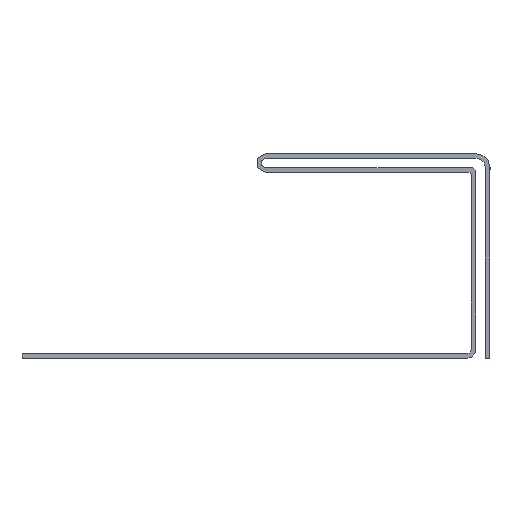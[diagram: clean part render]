
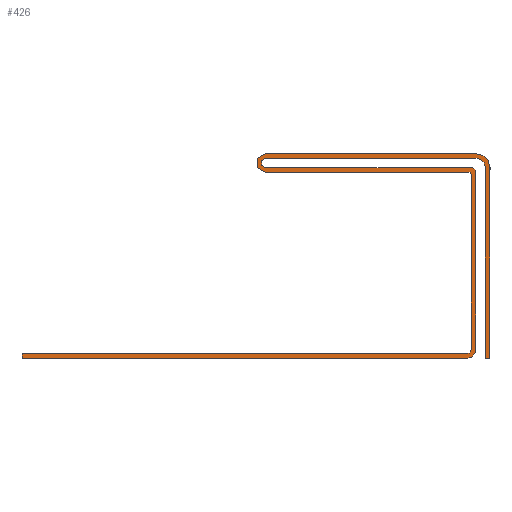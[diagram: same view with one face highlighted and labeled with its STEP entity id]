
A CAD part, left-side view. The second image highlights one B-rep face of the part: STEP entity #426.
In plain terms, the highlighted planar face has unit normal (-1, 0, 0).
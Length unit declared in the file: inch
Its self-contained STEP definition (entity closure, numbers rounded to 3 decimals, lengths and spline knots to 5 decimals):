
#28=PLANE('',#484);
#50=FACE_OUTER_BOUND('',#72,.T.);
#72=EDGE_LOOP('',(#377,#378,#379,#380,#381,#382,#383,#384,#385,#386,#387,
#388,#389,#390,#391,#392,#393,#394,#395,#396));
#75=LINE('',#619,#119);
#78=LINE('',#625,#122);
#81=LINE('',#631,#125);
#85=LINE('',#643,#129);
#89=LINE('',#655,#133);
#93=LINE('',#667,#137);
#97=LINE('',#679,#141);
#100=LINE('',#685,#144);
#103=LINE('',#691,#147);
#107=LINE('',#703,#151);
#111=LINE('',#715,#155);
#115=LINE('',#726,#159);
#119=VECTOR('',#497,0.3937);
#122=VECTOR('',#502,0.3937);
#125=VECTOR('',#507,0.3937);
#129=VECTOR('',#519,0.3937);
#133=VECTOR('',#531,0.3937);
#137=VECTOR('',#543,0.3937);
#141=VECTOR('',#555,0.3937);
#144=VECTOR('',#560,0.3937);
#147=VECTOR('',#565,0.3937);
#151=VECTOR('',#577,0.3937);
#155=VECTOR('',#589,0.3937);
#159=VECTOR('',#601,0.3937);
#161=CIRCLE('',#448,0.01937);
#163=CIRCLE('',#454,0.03937);
#165=CIRCLE('',#458,0.02);
#167=CIRCLE('',#462,0.02);
#169=CIRCLE('',#466,0.04);
#171=CIRCLE('',#472,0.06);
#173=CIRCLE('',#476,0.04);
#175=CIRCLE('',#480,0.01);
#177=VERTEX_POINT('',#609);
#178=VERTEX_POINT('',#610);
#181=VERTEX_POINT('',#618);
#183=VERTEX_POINT('',#624);
#185=VERTEX_POINT('',#630);
#187=VERTEX_POINT('',#636);
#189=VERTEX_POINT('',#642);
#191=VERTEX_POINT('',#648);
#193=VERTEX_POINT('',#654);
#195=VERTEX_POINT('',#660);
#197=VERTEX_POINT('',#666);
#199=VERTEX_POINT('',#672);
#201=VERTEX_POINT('',#678);
#203=VERTEX_POINT('',#684);
#205=VERTEX_POINT('',#690);
#207=VERTEX_POINT('',#696);
#209=VERTEX_POINT('',#702);
#211=VERTEX_POINT('',#708);
#213=VERTEX_POINT('',#714);
#215=VERTEX_POINT('',#720);
#217=EDGE_CURVE('',#177,#178,#161,.T.);
#221=EDGE_CURVE('',#181,#177,#75,.T.);
#224=EDGE_CURVE('',#183,#181,#78,.T.);
#227=EDGE_CURVE('',#185,#183,#81,.T.);
#230=EDGE_CURVE('',#187,#185,#163,.T.);
#233=EDGE_CURVE('',#189,#187,#85,.T.);
#236=EDGE_CURVE('',#191,#189,#165,.T.);
#239=EDGE_CURVE('',#193,#191,#89,.T.);
#242=EDGE_CURVE('',#195,#193,#167,.T.);
#245=EDGE_CURVE('',#197,#195,#93,.T.);
#248=EDGE_CURVE('',#199,#197,#169,.T.);
#251=EDGE_CURVE('',#201,#199,#97,.T.);
#254=EDGE_CURVE('',#203,#201,#100,.T.);
#257=EDGE_CURVE('',#205,#203,#103,.T.);
#260=EDGE_CURVE('',#207,#205,#171,.T.);
#263=EDGE_CURVE('',#209,#207,#107,.T.);
#266=EDGE_CURVE('',#211,#209,#173,.T.);
#269=EDGE_CURVE('',#213,#211,#111,.T.);
#272=EDGE_CURVE('',#215,#213,#175,.T.);
#275=EDGE_CURVE('',#178,#215,#115,.T.);
#377=ORIENTED_EDGE('',*,*,#275,.F.);
#378=ORIENTED_EDGE('',*,*,#217,.F.);
#379=ORIENTED_EDGE('',*,*,#221,.F.);
#380=ORIENTED_EDGE('',*,*,#224,.F.);
#381=ORIENTED_EDGE('',*,*,#227,.F.);
#382=ORIENTED_EDGE('',*,*,#230,.F.);
#383=ORIENTED_EDGE('',*,*,#233,.F.);
#384=ORIENTED_EDGE('',*,*,#236,.F.);
#385=ORIENTED_EDGE('',*,*,#239,.F.);
#386=ORIENTED_EDGE('',*,*,#242,.F.);
#387=ORIENTED_EDGE('',*,*,#245,.F.);
#388=ORIENTED_EDGE('',*,*,#248,.F.);
#389=ORIENTED_EDGE('',*,*,#251,.F.);
#390=ORIENTED_EDGE('',*,*,#254,.F.);
#391=ORIENTED_EDGE('',*,*,#257,.F.);
#392=ORIENTED_EDGE('',*,*,#260,.F.);
#393=ORIENTED_EDGE('',*,*,#263,.F.);
#394=ORIENTED_EDGE('',*,*,#266,.F.);
#395=ORIENTED_EDGE('',*,*,#269,.F.);
#396=ORIENTED_EDGE('',*,*,#272,.F.);
#426=ADVANCED_FACE('',(#50),#28,.F.);
#448=AXIS2_PLACEMENT_3D('',#611,#489,#490);
#454=AXIS2_PLACEMENT_3D('',#637,#512,#513);
#458=AXIS2_PLACEMENT_3D('',#649,#524,#525);
#462=AXIS2_PLACEMENT_3D('',#661,#536,#537);
#466=AXIS2_PLACEMENT_3D('',#673,#548,#549);
#472=AXIS2_PLACEMENT_3D('',#697,#570,#571);
#476=AXIS2_PLACEMENT_3D('',#709,#582,#583);
#480=AXIS2_PLACEMENT_3D('',#721,#594,#595);
#484=AXIS2_PLACEMENT_3D('',#729,#605,#606);
#489=DIRECTION('center_axis',(-1.,0.,0.));
#490=DIRECTION('ref_axis',(0.,1.,0.));
#497=DIRECTION('',(0.,-1.,0.));
#502=DIRECTION('',(0.,0.,1.));
#507=DIRECTION('',(0.,1.,0.));
#512=DIRECTION('center_axis',(1.,0.,0.));
#513=DIRECTION('ref_axis',(0.,-1.,0.));
#519=DIRECTION('',(0.,0.,-1.));
#524=DIRECTION('center_axis',(1.,0.,0.));
#525=DIRECTION('ref_axis',(0.,0.,1.));
#531=DIRECTION('',(0.,-1.,0.));
#536=DIRECTION('center_axis',(-1.,0.,0.));
#537=DIRECTION('ref_axis',(0.,0.,1.));
#543=DIRECTION('',(0.,1.,0.));
#548=DIRECTION('center_axis',(-1.,0.,0.));
#549=DIRECTION('ref_axis',(0.,0.,-1.));
#555=DIRECTION('',(0.,0.,1.));
#560=DIRECTION('',(0.,1.,0.));
#565=DIRECTION('',(0.,0.,-1.));
#570=DIRECTION('center_axis',(1.,0.,0.));
#571=DIRECTION('ref_axis',(0.,0.,1.));
#577=DIRECTION('',(0.,-1.,0.));
#582=DIRECTION('center_axis',(1.,0.,0.));
#583=DIRECTION('ref_axis',(0.,0.,-1.));
#589=DIRECTION('',(0.,1.,0.));
#594=DIRECTION('center_axis',(-1.,0.,0.));
#595=DIRECTION('ref_axis',(0.,0.,-1.));
#601=DIRECTION('',(0.,0.,1.));
#605=DIRECTION('center_axis',(1.,0.,0.));
#606=DIRECTION('ref_axis',(0.,0.,-1.));
#609=CARTESIAN_POINT('',(0.,0.01828,-0.84122));
#610=CARTESIAN_POINT('',(0.,-0.00109,-0.82185));
#611=CARTESIAN_POINT('Origin',(0.,0.01828,-0.82185));
#618=CARTESIAN_POINT('',(0.,1.91891,-0.84122));
#619=CARTESIAN_POINT('',(0.,1.91891,-0.84122));
#624=CARTESIAN_POINT('',(0.,1.91891,-0.86122));
#625=CARTESIAN_POINT('',(0.,1.91891,-0.86122));
#630=CARTESIAN_POINT('',(0.,0.01828,-0.86122));
#631=CARTESIAN_POINT('',(0.,0.01828,-0.86122));
#636=CARTESIAN_POINT('',(0.,-0.02109,-0.82185));
#637=CARTESIAN_POINT('Origin',(0.,0.01828,-0.82185));
#642=CARTESIAN_POINT('',(0.,-0.02109,-0.06622));
#643=CARTESIAN_POINT('',(0.,-0.02109,-0.06622));
#648=CARTESIAN_POINT('',(0.,-0.00109,-0.04622));
#649=CARTESIAN_POINT('Origin',(0.,-0.00109,-0.06622));
#654=CARTESIAN_POINT('',(0.,0.87761,-0.04622));
#655=CARTESIAN_POINT('',(0.,0.87761,-0.04622));
#660=CARTESIAN_POINT('',(0.,0.87761,-0.00622));
#661=CARTESIAN_POINT('Origin',(0.,0.87761,-0.02622));
#666=CARTESIAN_POINT('',(0.,-0.02109,-0.00622));
#667=CARTESIAN_POINT('',(0.,-0.02109,-0.00622));
#672=CARTESIAN_POINT('',(0.,-0.06109,-0.04622));
#673=CARTESIAN_POINT('Origin',(0.,-0.02109,-0.04622));
#678=CARTESIAN_POINT('',(0.,-0.06109,-0.86122));
#679=CARTESIAN_POINT('',(0.,-0.06109,-0.86122));
#684=CARTESIAN_POINT('',(0.,-0.08109,-0.86122));
#685=CARTESIAN_POINT('',(0.,-0.08109,-0.86122));
#690=CARTESIAN_POINT('',(0.,-0.08109,-0.04622));
#691=CARTESIAN_POINT('',(0.,-0.08109,-0.04622));
#696=CARTESIAN_POINT('',(0.,-0.02109,0.01378));
#697=CARTESIAN_POINT('Origin',(0.,-0.02109,-0.04622));
#702=CARTESIAN_POINT('',(0.,0.87761,0.01378));
#703=CARTESIAN_POINT('',(0.,0.87761,0.01378));
#708=CARTESIAN_POINT('',(0.,0.87761,-0.06622));
#709=CARTESIAN_POINT('Origin',(0.,0.87761,-0.02622));
#714=CARTESIAN_POINT('',(0.,0.0089,-0.06622));
#715=CARTESIAN_POINT('',(0.,0.0089,-0.06622));
#720=CARTESIAN_POINT('',(0.,-0.00109,-0.07565));
#721=CARTESIAN_POINT('Origin',(0.,0.0089,-0.07622));
#726=CARTESIAN_POINT('',(0.,-0.00109,-0.82185));
#729=CARTESIAN_POINT('Origin',(0.,0.91891,-0.42372));
